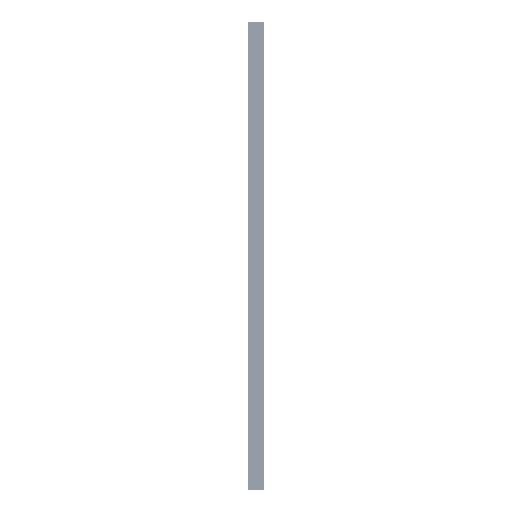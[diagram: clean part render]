
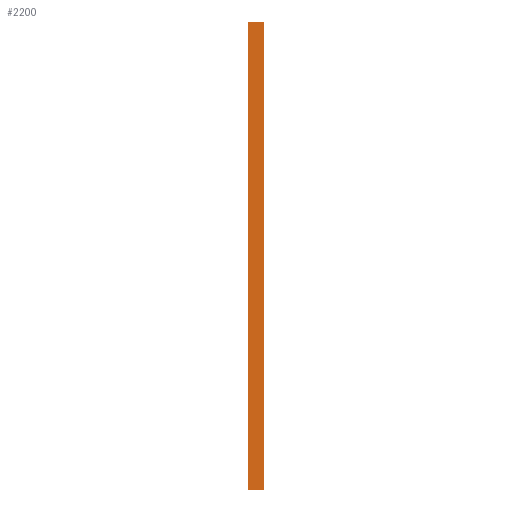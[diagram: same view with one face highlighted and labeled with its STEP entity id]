
A CAD part, left-side view. The second image highlights one B-rep face of the part: STEP entity #2200.
In plain terms, the highlighted planar face has unit normal (-1, 0, 0).
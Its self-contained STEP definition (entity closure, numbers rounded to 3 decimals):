
#2084 = CARTESIAN_POINT ( 'NONE',  ( -400., 20., 300. ) ) ;
#2200 = ADVANCED_FACE ( 'NONE', ( #34890 ), #16905, .F. ) ;
#2845 = EDGE_CURVE ( 'NONE', #17718, #34354, #44546, .T. ) ;
#6607 = CARTESIAN_POINT ( 'NONE',  ( -400., 0., -300. ) ) ;
#6887 = DIRECTION ( 'NONE',  ( 0., -1., 0. ) ) ;
#8849 = DIRECTION ( 'NONE',  ( 0., 0., 1. ) ) ;
#10120 = ORIENTED_EDGE ( 'NONE', *, *, #2845, .T. ) ;
#10449 = LINE ( 'NONE', #25056, #34081 ) ;
#11131 = DIRECTION ( 'NONE',  ( 0., -1., 0. ) ) ;
#11720 = CARTESIAN_POINT ( 'NONE',  ( -400., 0., -300. ) ) ;
#12361 = DIRECTION ( 'NONE',  ( 1., 0., 0. ) ) ;
#16526 = EDGE_CURVE ( 'NONE', #22169, #17718, #21972, .T. ) ;
#16905 = PLANE ( 'NONE',  #19871 ) ;
#17718 = VERTEX_POINT ( 'NONE', #6607 ) ;
#18833 = EDGE_CURVE ( 'NONE', #22169, #27230, #28390, .T. ) ;
#19871 = AXIS2_PLACEMENT_3D ( 'NONE', #20781, #12361, #27217 ) ;
#20781 = CARTESIAN_POINT ( 'NONE',  ( -400., 20., -300. ) ) ;
#21972 = LINE ( 'NONE', #37020, #43742 ) ;
#22169 = VERTEX_POINT ( 'NONE', #40267 ) ;
#23327 = EDGE_LOOP ( 'NONE', ( #10120, #24484, #34971, #38357 ) ) ;
#24484 = ORIENTED_EDGE ( 'NONE', *, *, #41724, .F. ) ;
#25056 = CARTESIAN_POINT ( 'NONE',  ( -400., 20., 300. ) ) ;
#25617 = CARTESIAN_POINT ( 'NONE',  ( -400., 0., 300. ) ) ;
#26867 = VECTOR ( 'NONE', #40093, 1000. ) ;
#27217 = DIRECTION ( 'NONE',  ( 0., 0., -1. ) ) ;
#27230 = VERTEX_POINT ( 'NONE', #2084 ) ;
#28390 = LINE ( 'NONE', #32008, #26867 ) ;
#32008 = CARTESIAN_POINT ( 'NONE',  ( -400., 20., -300. ) ) ;
#34081 = VECTOR ( 'NONE', #6887, 1000. ) ;
#34354 = VERTEX_POINT ( 'NONE', #25617 ) ;
#34890 = FACE_OUTER_BOUND ( 'NONE', #23327, .T. ) ;
#34971 = ORIENTED_EDGE ( 'NONE', *, *, #18833, .F. ) ;
#37020 = CARTESIAN_POINT ( 'NONE',  ( -400., 20., -300. ) ) ;
#38297 = VECTOR ( 'NONE', #8849, 1000. ) ;
#38357 = ORIENTED_EDGE ( 'NONE', *, *, #16526, .T. ) ;
#40093 = DIRECTION ( 'NONE',  ( 0., 0., 1. ) ) ;
#40267 = CARTESIAN_POINT ( 'NONE',  ( -400., 20., -300. ) ) ;
#41724 = EDGE_CURVE ( 'NONE', #27230, #34354, #10449, .T. ) ;
#43742 = VECTOR ( 'NONE', #11131, 1000. ) ;
#44546 = LINE ( 'NONE', #11720, #38297 ) ;
